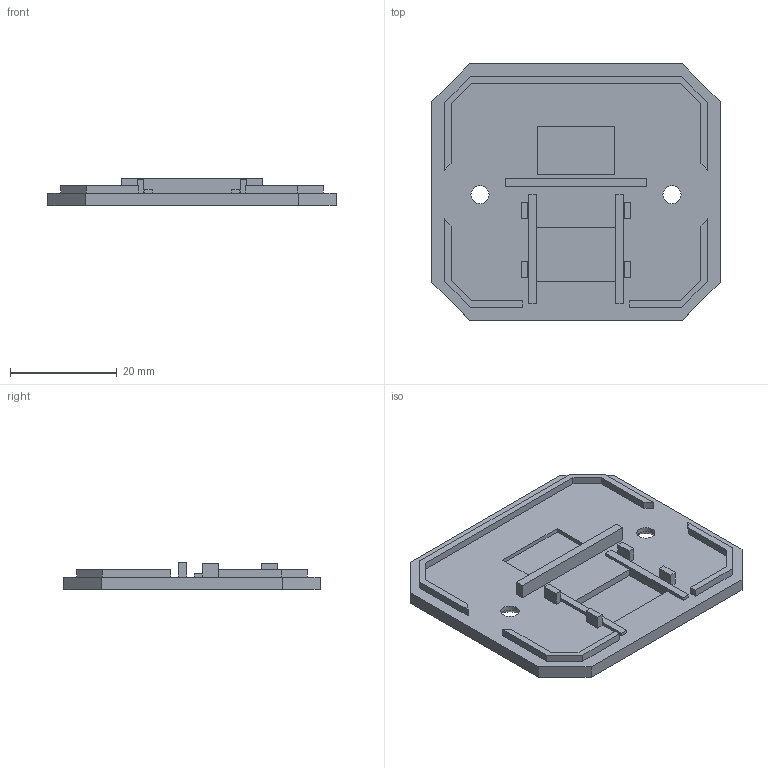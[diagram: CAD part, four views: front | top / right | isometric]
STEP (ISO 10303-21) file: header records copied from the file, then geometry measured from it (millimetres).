
FILE_DESCRIPTION(('Open CASCADE Model'),'2;1');
FILE_NAME('Open CASCADE Shape Model','2026-09-30T20:51:50',('Author'),( 'Open CASCADE'),'Open CASCADE STEP processor 7.9','Open CASCADE 7.9' ,'Unknown');
FILE_SCHEMA(('AUTOMOTIVE_DESIGN { 1 0 10303 214 1 1 1 1 }'));
Length unit declared in the file: millimetre
Products named in the file (1): Open CASCADE STEP translator 7.9 2
Bounding box: 54 x 48 x 5.2 mm (x, y, z)
Volume: 5995.9 mm3; surface area: 6219.4 mm2
Topology: 1 solids, 1 shells, 92 faces, 234 edges, 154 vertices
Faces by surface type: plane 84, cylinder 6, cone 2
Full cylindrical faces by diameter (mm): 3.4 x2
Entity records: 5737 total; most frequent: CARTESIAN_POINT 1086, DIRECTION 815, LINE 599, VECTOR 599, ORIENTED_EDGE 468, PCURVE 468, DEFINITIONAL_REPRESENTATION 468, EDGE_CURVE 234
